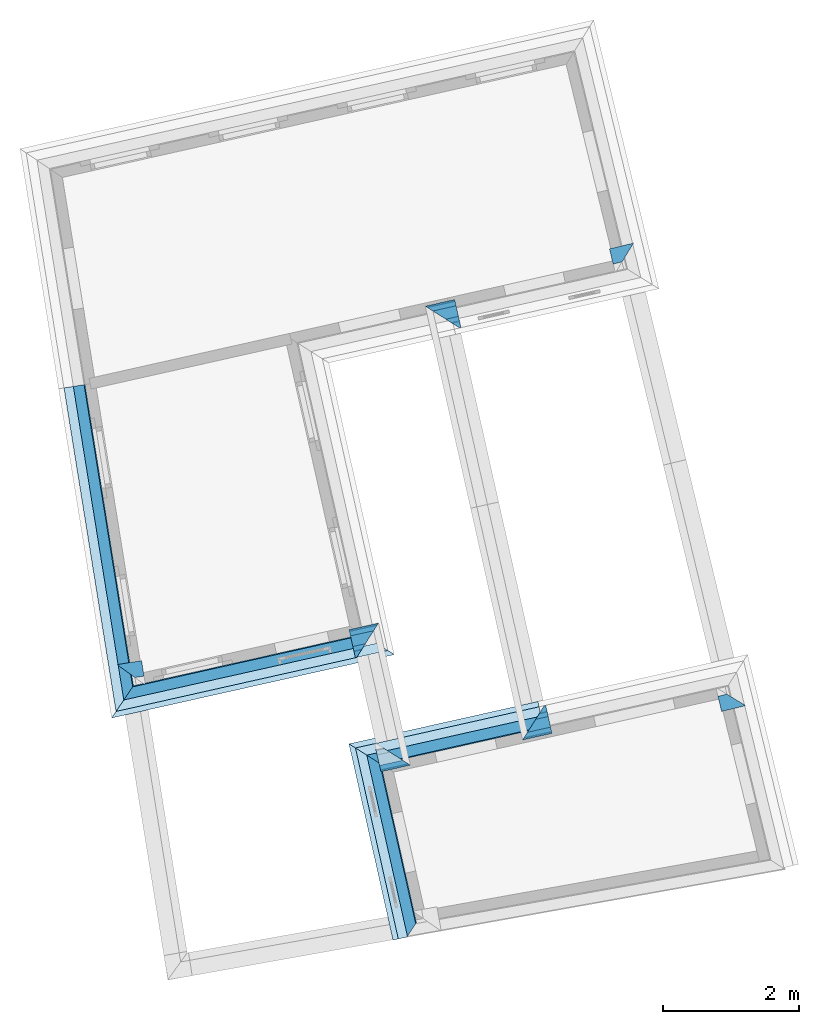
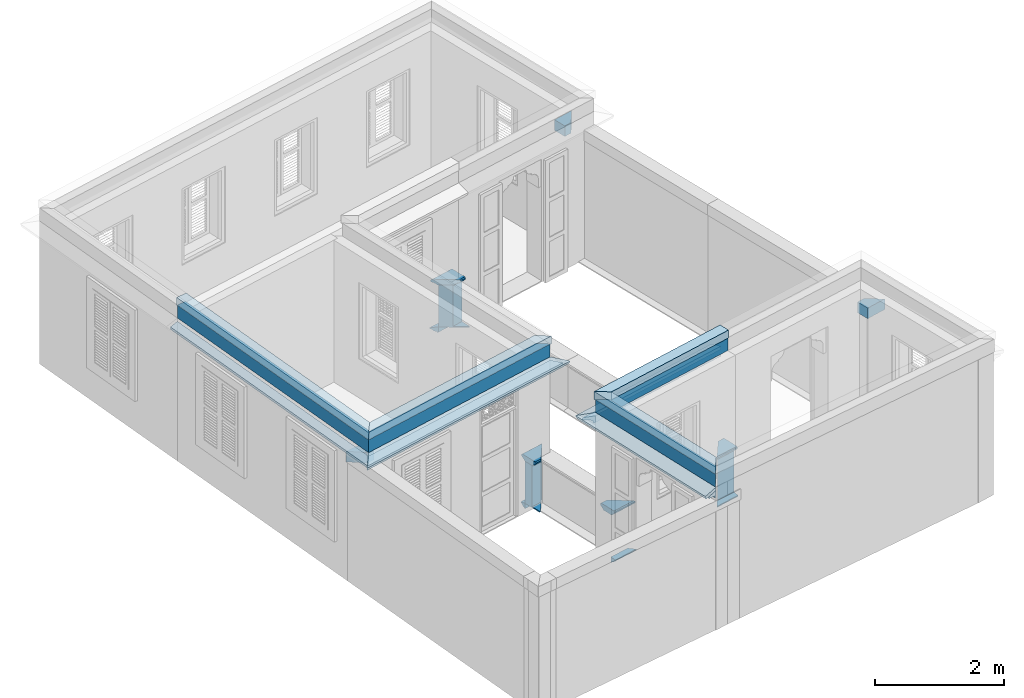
# One storey, part 13 of 15: 15 roofs, 14 walls.
"""IFC4 building model written with IfcOpenShell, lengths in metres."""

from ifc_helpers import new_model, si_unit, frame, origin_with_axes, place, context, subcontext, project, spatial, polyline, outline, extrude, clip, halfspace, material_profile, profile_set, profile_usage, type_object, element, save


model = new_model("IFC4")

# Units and contexts
model_context = context("Model", 3, world=origin_with_axes())
body_context = subcontext(model_context, "Body", "Model", "MODEL_VIEW")
ifc_project = project(units=[si_unit("PLANEANGLEUNIT", "RADIAN"), si_unit("MASSUNIT", "GRAM", prefix="KILO"), si_unit("FORCEUNIT", "NEWTON", prefix="KILO"), si_unit("LENGTHUNIT", "METRE"), si_unit("AREAUNIT", "SQUARE_METRE"), si_unit("VOLUMEUNIT", "CUBIC_METRE")], contexts=[model_context, model_context])

# Site, building, storey
site_placement = place(None, origin_with_axes())
site = spatial("IfcSite", under=ifc_project, at=site_placement, Name="Site plot-10", CompositionType="ELEMENT")
building_placement = place(None, origin_with_axes())
building = spatial("IfcBuilding", under=site, at=building_placement, Name="Building plot-10", CompositionType="ELEMENT")
storey_placement = place(None, frame((0.0, 0.0, 2.7), z_axis=(0.0, 0.0, 1.0), x_axis=(1.0, 0.0, 0.0)))
storey = spatial("IfcBuildingStorey", under=building, at=storey_placement, Name="plot-10 1", CompositionType="ELEMENT", Elevation=2.7)

# Walls
ifc_material_profile_1 = material_profile(None, outline(polyline([(0.265, 2.245), (0.265, 2.445), (0.035, 2.445), (0.035, 2.245), (0.265, 2.245)])))
ifc_profile_set_1 = profile_set([ifc_material_profile_1])
ifc_profile_usage_1 = profile_usage(ifc_profile_set_1)
wall_type_1 = type_object("IfcWallType", Name="parapet street_1", PredefinedType="PARAPET", material=ifc_profile_set_1)
wall_1_placement = place(storey_placement, frame((-24.7898709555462, 11.9953694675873, 0.0), z_axis=(0.987304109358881, 0.158841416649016, 0.0), x_axis=(-0.158841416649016, 0.987304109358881, 0.0)))
element("IfcWall", 1, at=wall_1_placement, inside=storey, type_object=wall_type_1, material=ifc_profile_usage_1, Name="parapet street_1", context=body_context, shape_type="Clipping", body=[
    clip(clip(extrude(outline(polyline([(0.265, 2.245), (0.265, 2.445), (0.035, 2.445), (0.035, 2.245), (0.265, 2.245)])), origin_with_axes(), (0.0, 0.0, 1.0), 2.1), halfspace(frame((0.0, 0.0, 1.1), z_axis=(8.26946079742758e-16, 0.0, -1.0), x_axis=(0.0, 1.0, 0.0)), True)), halfspace(frame((0.0, 0.0, 1.0), z_axis=(-0.707106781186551, 0.0, -0.707106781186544), x_axis=(0.0, 1.0, 0.0)), False)),
])
ifc_material_profile_2 = material_profile(None, outline(polyline([(0.265, 2.245), (0.265, 2.445), (0.035, 2.445), (0.035, 2.245), (0.265, 2.245)])))
ifc_profile_set_2 = profile_set([ifc_material_profile_2])
ifc_profile_usage_2 = profile_usage(ifc_profile_set_2)
wall_type_2 = type_object("IfcWallType", Name="parapet street_1", PredefinedType="PARAPET", material=ifc_profile_set_2)
wall_2_placement = place(storey_placement, frame((-14.1866044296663, 12.1996491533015, 0.0), z_axis=(-0.9718318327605, -0.235675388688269, 0.0), x_axis=(0.235675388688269, -0.9718318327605, 0.0)))
element("IfcWall", 2, at=wall_2_placement, inside=storey, type_object=wall_type_2, material=ifc_profile_usage_2, Name="parapet street_1", context=body_context, shape_type="Clipping", body=[
    clip(clip(extrude(outline(polyline([(0.265, 2.245), (0.265, 2.445), (0.035, 2.445), (0.035, 2.245), (0.265, 2.245)])), origin_with_axes(), (0.0, 0.0, 1.0), 2.1), halfspace(frame((0.0, 0.0, 1.1), z_axis=(8.26946079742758e-16, 0.0, -1.0), x_axis=(0.0, 1.0, 0.0)), True)), halfspace(frame((0.0, 0.0, 1.0), z_axis=(-0.707106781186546, 0.0, -0.707106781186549), x_axis=(0.0, 1.0, 0.0)), False)),
])
ifc_profile_usage_3 = profile_usage(ifc_profile_set_2)
wall_3_placement = place(storey_placement, frame((-17.7562996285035, 18.0090950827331, 0.0), z_axis=(0.971831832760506, 0.235675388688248, 0.0), x_axis=(-0.235675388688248, 0.971831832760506, 0.0)))
element("IfcWall", 3, at=wall_3_placement, inside=storey, type_object=wall_type_2, material=ifc_profile_usage_3, Name="parapet street_1", context=body_context, shape_type="Clipping", body=[
    clip(clip(extrude(outline(polyline([(0.265, 2.245), (0.265, 2.445), (0.035, 2.445), (0.035, 2.245), (0.265, 2.245)])), origin_with_axes(), (0.0, 0.0, 1.0), 2.1), halfspace(frame((0.0, 0.0, 1.1), z_axis=(0.707106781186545, 0.0, -0.70710678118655), x_axis=(0.0, 1.0, 0.0)), True)), halfspace(frame((0.0, 0.0, 1.0), z_axis=(8.26946079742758e-16, 0.0, -1.0), x_axis=(0.0, 1.0, 0.0)), False)),
])
ifc_material_profile_3 = material_profile(None, outline(polyline([(0.25, 0.0), (0.25, 0.795), (0.09, 0.795), (0.09, 0.02), (-0.08, 0.02), (-0.08, 0.0), (0.25, 0.0)])))
ifc_profile_set_3 = profile_set([ifc_material_profile_3])
ifc_profile_usage_4 = profile_usage(ifc_profile_set_3)
wall_type_3 = type_object("IfcWallType", Name="parapet internal_0", PredefinedType="PARAPET", material=ifc_profile_set_3)
wall_4_placement = place(storey_placement, frame((-21.5863266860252, 12.3337581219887, 0.0), z_axis=(0.975741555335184, 0.218925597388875, 0.0), x_axis=(-0.218925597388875, 0.975741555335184, 0.0)))
element("IfcWall", 4, at=wall_4_placement, inside=storey, type_object=wall_type_3, material=ifc_profile_usage_4, Name="parapet internal_0", context=body_context, shape_type="Clipping", body=[
    clip(clip(extrude(outline(polyline([(0.25, 0.0), (0.25, 0.795), (0.09, 0.795), (0.09, 0.02), (-0.08, 0.02), (-0.08, 0.0), (0.25, 0.0)])), origin_with_axes(), (0.0, 0.0, 1.0), 2.1), halfspace(frame((0.0, 0.0, 1.1), z_axis=(0.707106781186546, 0.0, -0.707106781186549), x_axis=(0.0, 1.0, 0.0)), True)), halfspace(frame((0.0, 0.0, 1.0), z_axis=(-6.12323399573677e-17, 0.0, -1.0), x_axis=(0.0, 1.0, 0.0)), False)),
])
ifc_material_profile_4 = material_profile(None, outline(polyline([(0.265, 0.795), (0.268, 0.807), (0.274, 0.816), (0.283, 0.822), (0.295, 0.825), (0.295, 0.84), (0.305, 0.84), (0.317, 0.842), (0.326, 0.849), (0.333, 0.858), (0.335, 0.87), (0.333, 0.882), (0.326, 0.891), (0.317, 0.898), (0.305, 0.9), (0.035, 0.9), (0.023, 0.898), (0.014, 0.891), (0.007, 0.882), (0.005, 0.87), (0.007, 0.858), (0.014, 0.849), (0.023, 0.842), (0.035, 0.84), (0.045, 0.84), (0.045, 0.825), (0.057, 0.822), (0.066, 0.816), (0.072, 0.807), (0.075, 0.795), (0.265, 0.795)])))
ifc_profile_set_4 = profile_set([ifc_material_profile_4])
ifc_profile_usage_5 = profile_usage(ifc_profile_set_4)
wall_type_4 = type_object("IfcWallType", Name="parapet internal_1", PredefinedType="PARAPET", material=ifc_profile_set_4)
wall_5_placement = place(storey_placement, frame((-19.2180663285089, 11.3708280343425, 0.0), z_axis=(-0.975741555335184, -0.218925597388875, 0.0), x_axis=(0.218925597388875, -0.975741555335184, 0.0)))
element("IfcWall", 5, at=wall_5_placement, inside=storey, type_object=wall_type_4, material=ifc_profile_usage_5, Name="parapet internal_1", context=body_context, shape_type="Clipping", body=[
    clip(clip(extrude(outline(polyline([(0.265, 0.795), (0.268, 0.807), (0.274, 0.816), (0.283, 0.822), (0.295, 0.825), (0.295, 0.84), (0.305, 0.84), (0.317, 0.842), (0.326, 0.849), (0.333, 0.858), (0.335, 0.87), (0.333, 0.882), (0.326, 0.891), (0.317, 0.898), (0.305, 0.9), (0.035, 0.9), (0.023, 0.898), (0.014, 0.891), (0.007, 0.882), (0.005, 0.87), (0.007, 0.858), (0.014, 0.849), (0.023, 0.842), (0.035, 0.84), (0.045, 0.84), (0.045, 0.825), (0.057, 0.822), (0.066, 0.816), (0.072, 0.807), (0.075, 0.795), (0.265, 0.795)])), origin_with_axes(), (0.0, 0.0, 1.0), 2.1), halfspace(frame((0.0, 0.0, 1.1), z_axis=(-6.12323399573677e-17, 0.0, -1.0), x_axis=(0.0, 1.0, 0.0)), True)), halfspace(frame((0.0, 0.0, 1.0), z_axis=(-0.707106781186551, 0.0, -0.707106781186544), x_axis=(0.0, 1.0, 0.0)), False)),
])
ifc_profile_usage_6 = profile_usage(ifc_profile_set_4)
wall_6_placement = place(storey_placement, frame((-21.5863266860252, 12.3337581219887, 0.0), z_axis=(0.975741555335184, 0.218925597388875, 0.0), x_axis=(-0.218925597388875, 0.975741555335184, 0.0)))
element("IfcWall", 6, at=wall_6_placement, inside=storey, type_object=wall_type_4, material=ifc_profile_usage_6, Name="parapet internal_1", context=body_context, shape_type="Clipping", body=[
    clip(clip(extrude(outline(polyline([(0.265, 0.795), (0.268, 0.807), (0.274, 0.816), (0.283, 0.822), (0.295, 0.825), (0.295, 0.84), (0.305, 0.84), (0.317, 0.842), (0.326, 0.849), (0.333, 0.858), (0.335, 0.87), (0.333, 0.882), (0.326, 0.891), (0.317, 0.898), (0.305, 0.9), (0.035, 0.9), (0.023, 0.898), (0.014, 0.891), (0.007, 0.882), (0.005, 0.87), (0.007, 0.858), (0.014, 0.849), (0.023, 0.842), (0.035, 0.84), (0.045, 0.84), (0.045, 0.825), (0.057, 0.822), (0.066, 0.816), (0.072, 0.807), (0.075, 0.795), (0.265, 0.795)])), origin_with_axes(), (0.0, 0.0, 1.0), 2.1), halfspace(frame((0.0, 0.0, 1.1), z_axis=(0.707106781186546, 0.0, -0.707106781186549), x_axis=(0.0, 1.0, 0.0)), True)), halfspace(frame((0.0, 0.0, 1.0), z_axis=(-6.12323399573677e-17, 0.0, -1.0), x_axis=(0.0, 1.0, 0.0)), False)),
])
ifc_material_profile_5 = material_profile(None, outline(polyline([(0.25, -0.1), (0.265, -0.1), (0.265, -0.085), (0.278, -0.084), (0.289, -0.081), (0.301, -0.074), (0.309, -0.065), (0.315, -0.055), (0.324, -0.044), (0.334, -0.038), (0.345, -0.035), (0.345, -0.015), (0.25, 0.0), (0.25, -0.1)])))
ifc_profile_set_5 = profile_set([ifc_material_profile_5])
ifc_profile_usage_7 = profile_usage(ifc_profile_set_5)
wall_type_5 = type_object("IfcWallType", Name="parapet internal_2", PredefinedType="PARAPET", material=ifc_profile_set_5)
wall_7_placement = place(storey_placement, frame((-19.2180663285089, 11.3708280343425, 0.0), z_axis=(-0.975741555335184, -0.218925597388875, 0.0), x_axis=(0.218925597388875, -0.975741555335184, 0.0)))
element("IfcWall", 7, at=wall_7_placement, inside=storey, type_object=wall_type_5, material=ifc_profile_usage_7, Name="parapet internal_2", context=body_context, shape_type="Clipping", body=[
    clip(clip(extrude(outline(polyline([(0.25, -0.1), (0.265, -0.1), (0.265, -0.085), (0.278, -0.084), (0.289, -0.081), (0.301, -0.074), (0.309, -0.065), (0.315, -0.055), (0.324, -0.044), (0.334, -0.038), (0.345, -0.035), (0.345, -0.015), (0.25, 0.0), (0.25, -0.1)])), origin_with_axes(), (0.0, 0.0, 1.0), 2.1), halfspace(frame((0.0, 0.0, 1.1), z_axis=(-6.12323399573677e-17, 0.0, -1.0), x_axis=(0.0, 1.0, 0.0)), True)), halfspace(frame((0.0, 0.0, 1.0), z_axis=(-0.707106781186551, 0.0, -0.707106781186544), x_axis=(0.0, 1.0, 0.0)), False)),
])
ifc_profile_usage_8 = profile_usage(ifc_profile_set_5)
wall_8_placement = place(storey_placement, frame((-21.5863266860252, 12.3337581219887, 0.0), z_axis=(0.975741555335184, 0.218925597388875, 0.0), x_axis=(-0.218925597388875, 0.975741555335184, 0.0)))
element("IfcWall", 8, at=wall_8_placement, inside=storey, type_object=wall_type_5, material=ifc_profile_usage_8, Name="parapet internal_2", context=body_context, shape_type="Clipping", body=[
    clip(clip(extrude(outline(polyline([(0.25, -0.1), (0.265, -0.1), (0.265, -0.085), (0.278, -0.084), (0.289, -0.081), (0.301, -0.074), (0.309, -0.065), (0.315, -0.055), (0.324, -0.044), (0.334, -0.038), (0.345, -0.035), (0.345, -0.015), (0.25, 0.0), (0.25, -0.1)])), origin_with_axes(), (0.0, 0.0, 1.0), 2.1), halfspace(frame((0.0, 0.0, 1.1), z_axis=(0.707106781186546, 0.0, -0.707106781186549), x_axis=(0.0, 1.0, 0.0)), True)), halfspace(frame((0.0, 0.0, 1.0), z_axis=(-6.12323399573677e-17, 0.0, -1.0), x_axis=(0.0, 1.0, 0.0)), False)),
])
ifc_material_profile_6 = material_profile(None, outline(polyline([(0.25, 0.0), (0.25, 0.795), (0.09, 0.795), (0.09, 0.02), (-0.08, 0.02), (-0.08, 0.0), (0.25, 0.0)])))
ifc_profile_set_6 = profile_set([ifc_material_profile_6])
ifc_profile_usage_9 = profile_usage(ifc_profile_set_6)
wall_type_6 = type_object("IfcWallType", Name="parapet internal_0", PredefinedType="PARAPET", material=ifc_profile_set_6)
wall_9_placement = place(storey_placement, frame((-20.1272684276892, 17.1788071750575, 0.0), z_axis=(0.975741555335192, 0.218925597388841, 0.0), x_axis=(-0.218925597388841, 0.975741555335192, 0.0)))
element("IfcWall", 9, at=wall_9_placement, inside=storey, type_object=wall_type_6, material=ifc_profile_usage_9, Name="parapet internal_0", context=body_context, shape_type="Clipping", body=[
    clip(clip(extrude(outline(polyline([(0.25, 0.0), (0.25, 0.795), (0.09, 0.795), (0.09, 0.02), (-0.08, 0.02), (-0.08, 0.0), (0.25, 0.0)])), origin_with_axes(), (0.0, 0.0, 1.0), 2.1), halfspace(frame((0.0, 0.0, 1.1), z_axis=(-2.28167838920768e-15, 0.0, -1.0), x_axis=(0.0, 1.0, 0.0)), True)), halfspace(frame((0.0, 0.0, 1.0), z_axis=(-0.707106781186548, 0.0, -0.707106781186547), x_axis=(0.0, 1.0, 0.0)), False)),
])
ifc_profile_usage_10 = profile_usage(ifc_profile_set_6)
wall_10_placement = place(storey_placement, frame((-16.7939642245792, 11.9147200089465, 0.0), z_axis=(-0.975741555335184, -0.218925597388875, 0.0), x_axis=(0.218925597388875, -0.975741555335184, 0.0)))
element("IfcWall", 10, at=wall_10_placement, inside=storey, type_object=wall_type_6, material=ifc_profile_usage_10, Name="parapet internal_0", context=body_context, shape_type="Clipping", body=[
    clip(clip(extrude(outline(polyline([(0.25, 0.0), (0.25, 0.795), (0.09, 0.795), (0.09, 0.02), (-0.08, 0.02), (-0.08, 0.0), (0.25, 0.0)])), origin_with_axes(), (0.0, 0.0, 1.0), 2.1), halfspace(frame((0.0, 0.0, 1.1), z_axis=(0.707106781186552, 0.0, -0.707106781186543), x_axis=(0.0, 1.0, 0.0)), True)), halfspace(frame((0.0, 0.0, 1.0), z_axis=(-6.12323399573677e-17, 0.0, -1.0), x_axis=(0.0, 1.0, 0.0)), False)),
])
ifc_material_profile_7 = material_profile(None, outline(polyline([(0.265, 0.795), (0.268, 0.807), (0.274, 0.816), (0.283, 0.822), (0.295, 0.825), (0.295, 0.84), (0.305, 0.84), (0.317, 0.842), (0.326, 0.849), (0.333, 0.858), (0.335, 0.87), (0.333, 0.882), (0.326, 0.891), (0.317, 0.898), (0.305, 0.9), (0.035, 0.9), (0.023, 0.898), (0.014, 0.891), (0.007, 0.882), (0.005, 0.87), (0.007, 0.858), (0.014, 0.849), (0.023, 0.842), (0.035, 0.84), (0.045, 0.84), (0.045, 0.825), (0.057, 0.822), (0.066, 0.816), (0.072, 0.807), (0.075, 0.795), (0.265, 0.795)])))
ifc_profile_set_7 = profile_set([ifc_material_profile_7])
ifc_profile_usage_11 = profile_usage(ifc_profile_set_7)
wall_type_7 = type_object("IfcWallType", Name="parapet internal_1", PredefinedType="PARAPET", material=ifc_profile_set_7)
wall_11_placement = place(storey_placement, frame((-20.1272684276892, 17.1788071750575, 0.0), z_axis=(0.975741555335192, 0.218925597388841, 0.0), x_axis=(-0.218925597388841, 0.975741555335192, 0.0)))
element("IfcWall", 11, at=wall_11_placement, inside=storey, type_object=wall_type_7, material=ifc_profile_usage_11, Name="parapet internal_1", context=body_context, shape_type="Clipping", body=[
    clip(clip(extrude(outline(polyline([(0.265, 0.795), (0.268, 0.807), (0.274, 0.816), (0.283, 0.822), (0.295, 0.825), (0.295, 0.84), (0.305, 0.84), (0.317, 0.842), (0.326, 0.849), (0.333, 0.858), (0.335, 0.87), (0.333, 0.882), (0.326, 0.891), (0.317, 0.898), (0.305, 0.9), (0.035, 0.9), (0.023, 0.898), (0.014, 0.891), (0.007, 0.882), (0.005, 0.87), (0.007, 0.858), (0.014, 0.849), (0.023, 0.842), (0.035, 0.84), (0.045, 0.84), (0.045, 0.825), (0.057, 0.822), (0.066, 0.816), (0.072, 0.807), (0.075, 0.795), (0.265, 0.795)])), origin_with_axes(), (0.0, 0.0, 1.0), 2.1), halfspace(frame((0.0, 0.0, 1.1), z_axis=(-2.28167838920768e-15, 0.0, -1.0), x_axis=(0.0, 1.0, 0.0)), True)), halfspace(frame((0.0, 0.0, 1.0), z_axis=(-0.707106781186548, 0.0, -0.707106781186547), x_axis=(0.0, 1.0, 0.0)), False)),
])
ifc_profile_usage_12 = profile_usage(ifc_profile_set_7)
wall_12_placement = place(storey_placement, frame((-16.7939642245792, 11.9147200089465, 0.0), z_axis=(-0.975741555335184, -0.218925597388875, 0.0), x_axis=(0.218925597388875, -0.975741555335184, 0.0)))
element("IfcWall", 12, at=wall_12_placement, inside=storey, type_object=wall_type_7, material=ifc_profile_usage_12, Name="parapet internal_1", context=body_context, shape_type="Clipping", body=[
    clip(clip(extrude(outline(polyline([(0.265, 0.795), (0.268, 0.807), (0.274, 0.816), (0.283, 0.822), (0.295, 0.825), (0.295, 0.84), (0.305, 0.84), (0.317, 0.842), (0.326, 0.849), (0.333, 0.858), (0.335, 0.87), (0.333, 0.882), (0.326, 0.891), (0.317, 0.898), (0.305, 0.9), (0.035, 0.9), (0.023, 0.898), (0.014, 0.891), (0.007, 0.882), (0.005, 0.87), (0.007, 0.858), (0.014, 0.849), (0.023, 0.842), (0.035, 0.84), (0.045, 0.84), (0.045, 0.825), (0.057, 0.822), (0.066, 0.816), (0.072, 0.807), (0.075, 0.795), (0.265, 0.795)])), origin_with_axes(), (0.0, 0.0, 1.0), 2.1), halfspace(frame((0.0, 0.0, 1.1), z_axis=(0.707106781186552, 0.0, -0.707106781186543), x_axis=(0.0, 1.0, 0.0)), True)), halfspace(frame((0.0, 0.0, 1.0), z_axis=(-6.12323399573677e-17, 0.0, -1.0), x_axis=(0.0, 1.0, 0.0)), False)),
])
ifc_material_profile_8 = material_profile(None, outline(polyline([(0.25, -0.1), (0.265, -0.1), (0.265, -0.085), (0.278, -0.084), (0.289, -0.081), (0.301, -0.074), (0.309, -0.065), (0.315, -0.055), (0.324, -0.044), (0.334, -0.038), (0.345, -0.035), (0.345, -0.015), (0.25, 0.0), (0.25, -0.1)])))
ifc_profile_set_8 = profile_set([ifc_material_profile_8])
ifc_profile_usage_13 = profile_usage(ifc_profile_set_8)
wall_type_8 = type_object("IfcWallType", Name="parapet internal_2", PredefinedType="PARAPET", material=ifc_profile_set_8)
wall_13_placement = place(storey_placement, frame((-20.1272684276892, 17.1788071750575, 0.0), z_axis=(0.975741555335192, 0.218925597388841, 0.0), x_axis=(-0.218925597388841, 0.975741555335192, 0.0)))
element("IfcWall", 13, at=wall_13_placement, inside=storey, type_object=wall_type_8, material=ifc_profile_usage_13, Name="parapet internal_2", context=body_context, shape_type="Clipping", body=[
    clip(clip(extrude(outline(polyline([(0.25, -0.1), (0.265, -0.1), (0.265, -0.085), (0.278, -0.084), (0.289, -0.081), (0.301, -0.074), (0.309, -0.065), (0.315, -0.055), (0.324, -0.044), (0.334, -0.038), (0.345, -0.035), (0.345, -0.015), (0.25, 0.0), (0.25, -0.1)])), origin_with_axes(), (0.0, 0.0, 1.0), 2.1), halfspace(frame((0.0, 0.0, 1.1), z_axis=(-2.28167838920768e-15, 0.0, -1.0), x_axis=(0.0, 1.0, 0.0)), True)), halfspace(frame((0.0, 0.0, 1.0), z_axis=(-0.707106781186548, 0.0, -0.707106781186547), x_axis=(0.0, 1.0, 0.0)), False)),
])
ifc_profile_usage_14 = profile_usage(ifc_profile_set_8)
wall_14_placement = place(storey_placement, frame((-16.7939642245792, 11.9147200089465, 0.0), z_axis=(-0.975741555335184, -0.218925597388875, 0.0), x_axis=(0.218925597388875, -0.975741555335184, 0.0)))
element("IfcWall", 14, at=wall_14_placement, inside=storey, type_object=wall_type_8, material=ifc_profile_usage_14, Name="parapet internal_2", context=body_context, shape_type="Clipping", body=[
    clip(clip(extrude(outline(polyline([(0.25, -0.1), (0.265, -0.1), (0.265, -0.085), (0.278, -0.084), (0.289, -0.081), (0.301, -0.074), (0.309, -0.065), (0.315, -0.055), (0.324, -0.044), (0.334, -0.038), (0.345, -0.035), (0.345, -0.015), (0.25, 0.0), (0.25, -0.1)])), origin_with_axes(), (0.0, 0.0, 1.0), 2.1), halfspace(frame((0.0, 0.0, 1.1), z_axis=(0.707106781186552, 0.0, -0.707106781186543), x_axis=(0.0, 1.0, 0.0)), True)), halfspace(frame((0.0, 0.0, 1.0), z_axis=(-6.12323399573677e-17, 0.0, -1.0), x_axis=(0.0, 1.0, 0.0)), False)),
])

# Roofs
ifc_material_profile_9 = material_profile(None, outline(polyline([(0.25, 0.0), (0.25, 0.245), (0.09, 0.245), (0.09, 0.0), (0.25, 0.0)])))
ifc_profile_set_9 = profile_set([ifc_material_profile_9])
ifc_profile_usage_15 = profile_usage(ifc_profile_set_9)
roof_type_1 = type_object("IfcRoofType", Name="roofline_0", PredefinedType="FREEFORM", material=ifc_profile_set_9)
roof_1_placement = place(storey_placement, frame((-21.1016825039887, 10.6304969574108, 2.7), z_axis=(0.975741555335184, 0.218925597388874, 0.0), x_axis=(-0.218925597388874, 0.975741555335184, 0.0)))
element("IfcRoof", 15, at=roof_1_placement, inside=storey, type_object=roof_type_1, material=ifc_profile_usage_15, Name="roofline_0", context=body_context, shape_type="Clipping", body=[
    clip(clip(extrude(outline(polyline([(0.25, 0.0), (0.25, 0.245), (0.09, 0.245), (0.09, 0.0), (0.25, 0.0)])), origin_with_axes(), (0.0, 0.0, 1.0), 4.38436903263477), halfspace(frame((0.0, 0.0, 3.38436903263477), z_axis=(2.83604770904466e-14, 0.0, -1.0), x_axis=(0.0, 1.0, 0.0)), True)), halfspace(frame((0.0, 0.0, 1.0), z_axis=(-0.707106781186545, 0.0, -0.70710678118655), x_axis=(0.0, 1.0, 0.0)), False)),
])
ifc_profile_usage_16 = profile_usage(ifc_profile_set_9)
roof_2_placement = place(storey_placement, frame((-19.4153221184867, 7.68222634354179, 2.7), z_axis=(-0.218925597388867, 0.975741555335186, 0.0), x_axis=(-0.975741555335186, -0.218925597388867, 0.0)))
element("IfcRoof", 16, at=roof_2_placement, inside=storey, type_object=roof_type_1, material=ifc_profile_usage_16, Name="roofline_0", context=body_context, shape_type="Clipping", body=[
    clip(clip(extrude(outline(polyline([(0.25, 0.0), (0.25, 0.245), (0.09, 0.245), (0.09, 0.0), (0.25, 0.0)])), origin_with_axes(), (0.0, 0.0, 1.0), 4.24593760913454), halfspace(frame((0.0, 0.0, 3.24593760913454), z_axis=(0.707106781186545, 0.0, -0.70710678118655), x_axis=(0.0, 1.0, 0.0)), True)), halfspace(frame((0.0, 0.0, 1.0), z_axis=(-0.691448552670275, 0.0, -0.722425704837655), x_axis=(0.0, 1.0, 0.0)), False)),
])
ifc_material_profile_10 = material_profile(None, outline(polyline([(0.265, 0.245), (0.265, 0.395), (0.075, 0.395), (0.075, 0.245), (0.265, 0.245)])))
ifc_profile_set_10 = profile_set([ifc_material_profile_10])
ifc_profile_usage_17 = profile_usage(ifc_profile_set_10)
roof_type_2 = type_object("IfcRoofType", Name="roofline_1", PredefinedType="FREEFORM", material=ifc_profile_set_10)
roof_3_placement = place(storey_placement, frame((-21.1016825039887, 10.6304969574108, 2.7), z_axis=(0.975741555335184, 0.218925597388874, 0.0), x_axis=(-0.218925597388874, 0.975741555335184, 0.0)))
element("IfcRoof", 17, at=roof_3_placement, inside=storey, type_object=roof_type_2, material=ifc_profile_usage_17, Name="roofline_1", context=body_context, shape_type="Clipping", body=[
    clip(clip(extrude(outline(polyline([(0.265, 0.245), (0.265, 0.395), (0.075, 0.395), (0.075, 0.245), (0.265, 0.245)])), origin_with_axes(), (0.0, 0.0, 1.0), 4.38436903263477), halfspace(frame((0.0, 0.0, 3.38436903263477), z_axis=(2.83604770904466e-14, 0.0, -1.0), x_axis=(0.0, 1.0, 0.0)), True)), halfspace(frame((0.0, 0.0, 1.0), z_axis=(-0.707106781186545, 0.0, -0.70710678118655), x_axis=(0.0, 1.0, 0.0)), False)),
])
ifc_profile_usage_18 = profile_usage(ifc_profile_set_10)
roof_4_placement = place(storey_placement, frame((-19.4153221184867, 7.68222634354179, 2.7), z_axis=(-0.218925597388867, 0.975741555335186, 0.0), x_axis=(-0.975741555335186, -0.218925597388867, 0.0)))
element("IfcRoof", 18, at=roof_4_placement, inside=storey, type_object=roof_type_2, material=ifc_profile_usage_18, Name="roofline_1", context=body_context, shape_type="Clipping", body=[
    clip(clip(extrude(outline(polyline([(0.265, 0.245), (0.265, 0.395), (0.075, 0.395), (0.075, 0.245), (0.265, 0.245)])), origin_with_axes(), (0.0, 0.0, 1.0), 4.24593760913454), halfspace(frame((0.0, 0.0, 3.24593760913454), z_axis=(0.707106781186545, 0.0, -0.70710678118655), x_axis=(0.0, 1.0, 0.0)), True)), halfspace(frame((0.0, 0.0, 1.0), z_axis=(-0.691448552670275, 0.0, -0.722425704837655), x_axis=(0.0, 1.0, 0.0)), False)),
])
ifc_material_profile_11 = material_profile(None, outline(polyline([(0.25, 0.0), (0.25, 0.245), (0.09, 0.245), (0.09, 0.0), (0.25, 0.0)])))
ifc_profile_set_11 = profile_set([ifc_material_profile_11])
ifc_profile_usage_19 = profile_usage(ifc_profile_set_11)
roof_type_3 = type_object("IfcRoofType", Name="roofline_0", PredefinedType="FREEFORM", material=ifc_profile_set_11)
roof_5_placement = place(storey_placement, frame((-23.6437254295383, 11.1669067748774, 2.7), z_axis=(-0.158841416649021, 0.98730410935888, 0.0), x_axis=(-0.98730410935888, -0.158841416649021, 0.0)))
element("IfcRoof", 19, at=roof_5_placement, inside=storey, type_object=roof_type_3, material=ifc_profile_usage_19, Name="roofline_0", context=body_context, shape_type="Clipping", body=[
    clip(clip(extrude(outline(polyline([(0.25, 0.0), (0.25, 0.245), (0.09, 0.245), (0.09, 0.0), (0.25, 0.0)])), origin_with_axes(), (0.0, 0.0, 1.0), 6.41635748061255), halfspace(frame((0.0, 0.0, 5.41635748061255), z_axis=(-2.5596361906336e-14, 0.0, -1.0), x_axis=(0.0, 1.0, 0.0)), True)), halfspace(frame((0.0, 0.0, 1.0), z_axis=(-0.728408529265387, 0.0, -0.685143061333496), x_axis=(0.0, 1.0, 0.0)), False)),
])
ifc_profile_usage_20 = profile_usage(ifc_profile_set_11)
roof_6_placement = place(storey_placement, frame((-19.6051363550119, 13.0959817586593, 2.7), z_axis=(-0.975741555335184, -0.218925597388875, 0.0), x_axis=(0.218925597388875, -0.975741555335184, 0.0)))
element("IfcRoof", 20, at=roof_6_placement, inside=storey, type_object=roof_type_3, material=ifc_profile_usage_20, Name="roofline_0", context=body_context, shape_type="Clipping", body=[
    clip(clip(extrude(outline(polyline([(0.25, 0.0), (0.25, 0.245), (0.09, 0.245), (0.09, 0.0), (0.25, 0.0)])), origin_with_axes(), (0.0, 0.0, 1.0), 5.30178510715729), halfspace(frame((0.0, 0.0, 4.30178510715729), z_axis=(0.728408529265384, 0.0, -0.6851430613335), x_axis=(0.0, 1.0, 0.0)), True)), halfspace(frame((0.0, 0.0, 1.0), z_axis=(-0.707106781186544, 0.0, -0.707106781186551), x_axis=(0.0, 1.0, 0.0)), False)),
])
ifc_material_profile_12 = material_profile(None, outline(polyline([(0.265, 0.245), (0.265, 0.395), (0.075, 0.395), (0.075, 0.245), (0.265, 0.245)])))
ifc_profile_set_12 = profile_set([ifc_material_profile_12])
ifc_profile_usage_21 = profile_usage(ifc_profile_set_12)
roof_type_4 = type_object("IfcRoofType", Name="roofline_1", PredefinedType="FREEFORM", material=ifc_profile_set_12)
roof_7_placement = place(storey_placement, frame((-23.6437254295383, 11.1669067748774, 2.7), z_axis=(-0.158841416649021, 0.98730410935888, 0.0), x_axis=(-0.98730410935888, -0.158841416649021, 0.0)))
element("IfcRoof", 21, at=roof_7_placement, inside=storey, type_object=roof_type_4, material=ifc_profile_usage_21, Name="roofline_1", context=body_context, shape_type="Clipping", body=[
    clip(clip(extrude(outline(polyline([(0.265, 0.245), (0.265, 0.395), (0.075, 0.395), (0.075, 0.245), (0.265, 0.245)])), origin_with_axes(), (0.0, 0.0, 1.0), 6.41635748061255), halfspace(frame((0.0, 0.0, 5.41635748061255), z_axis=(-2.5596361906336e-14, 0.0, -1.0), x_axis=(0.0, 1.0, 0.0)), True)), halfspace(frame((0.0, 0.0, 1.0), z_axis=(-0.728408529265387, 0.0, -0.685143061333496), x_axis=(0.0, 1.0, 0.0)), False)),
])
ifc_profile_usage_22 = profile_usage(ifc_profile_set_12)
roof_8_placement = place(storey_placement, frame((-19.6051363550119, 13.0959817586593, 2.7), z_axis=(-0.975741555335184, -0.218925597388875, 0.0), x_axis=(0.218925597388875, -0.975741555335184, 0.0)))
element("IfcRoof", 22, at=roof_8_placement, inside=storey, type_object=roof_type_4, material=ifc_profile_usage_22, Name="roofline_1", context=body_context, shape_type="Clipping", body=[
    clip(clip(extrude(outline(polyline([(0.265, 0.245), (0.265, 0.395), (0.075, 0.395), (0.075, 0.245), (0.265, 0.245)])), origin_with_axes(), (0.0, 0.0, 1.0), 5.30178510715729), halfspace(frame((0.0, 0.0, 4.30178510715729), z_axis=(0.728408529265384, 0.0, -0.6851430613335), x_axis=(0.0, 1.0, 0.0)), True)), halfspace(frame((0.0, 0.0, 1.0), z_axis=(-0.707106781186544, 0.0, -0.707106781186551), x_axis=(0.0, 1.0, 0.0)), False)),
])
ifc_material_profile_13 = material_profile(None, outline(polyline([(0.25, -0.19), (0.275, -0.19), (0.275, -0.15), (0.39, -0.15), (0.39, -0.107509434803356), (0.25, -0.0629639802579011), (0.25, -0.19)])))
ifc_profile_set_13 = profile_set([ifc_material_profile_13])
ifc_profile_usage_23 = profile_usage(ifc_profile_set_13)
roof_type_5 = type_object("IfcRoofType", Name="eaves_0", PredefinedType="FREEFORM", material=ifc_profile_set_13)
roof_9_placement = place(storey_placement, frame((-23.6437254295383, 11.1669067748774, 2.7), z_axis=(-0.158841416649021, 0.98730410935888, 0.0), x_axis=(-0.98730410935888, -0.158841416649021, 0.0)))
element("IfcRoof", 23, at=roof_9_placement, inside=storey, type_object=roof_type_5, material=ifc_profile_usage_23, Name="eaves_0", context=body_context, shape_type="Clipping", body=[
    clip(clip(extrude(outline(polyline([(0.25, -0.19), (0.275, -0.19), (0.275, -0.15), (0.39, -0.15), (0.39, -0.107509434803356), (0.25, -0.0629639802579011), (0.25, -0.19)])), origin_with_axes(), (0.0, 0.0, 1.0), 6.41635748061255), halfspace(frame((0.0, 0.0, 5.41635748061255), z_axis=(-2.5596361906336e-14, 0.0, -1.0), x_axis=(0.0, 1.0, 0.0)), True)), halfspace(frame((0.0, 0.0, 1.0), z_axis=(-0.728408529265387, 0.0, -0.685143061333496), x_axis=(0.0, 1.0, 0.0)), False)),
])
ifc_profile_usage_24 = profile_usage(ifc_profile_set_13)
roof_10_placement = place(storey_placement, frame((-19.6051363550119, 13.0959817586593, 2.7), z_axis=(-0.975741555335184, -0.218925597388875, 0.0), x_axis=(0.218925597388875, -0.975741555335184, 0.0)))
element("IfcRoof", 24, at=roof_10_placement, inside=storey, type_object=roof_type_5, material=ifc_profile_usage_24, Name="eaves_0", context=body_context, shape_type="Clipping", body=[
    clip(clip(extrude(outline(polyline([(0.25, -0.19), (0.275, -0.19), (0.275, -0.15), (0.39, -0.15), (0.39, -0.107509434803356), (0.25, -0.0629639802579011), (0.25, -0.19)])), origin_with_axes(), (0.0, 0.0, 1.0), 5.30178510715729), halfspace(frame((0.0, 0.0, 4.30178510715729), z_axis=(0.728408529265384, 0.0, -0.6851430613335), x_axis=(0.0, 1.0, 0.0)), True)), halfspace(frame((0.0, 0.0, 1.0), z_axis=(-0.707106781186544, 0.0, -0.707106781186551), x_axis=(0.0, 1.0, 0.0)), False)),
])
ifc_material_profile_14 = material_profile(None, outline(polyline([(0.25, -0.0629639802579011), (0.451807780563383, -0.127175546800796), (0.47, -0.07), (0.25, 0.0), (0.25, -0.0629639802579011)])))
ifc_profile_set_14 = profile_set([ifc_material_profile_14])
ifc_profile_usage_25 = profile_usage(ifc_profile_set_14)
roof_type_6 = type_object("IfcRoofType", Name="eaves_1", PredefinedType="FREEFORM", material=ifc_profile_set_14)
roof_11_placement = place(storey_placement, frame((-19.6051363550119, 13.0959817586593, 2.7), z_axis=(-0.975741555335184, -0.218925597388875, 0.0), x_axis=(0.218925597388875, -0.975741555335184, 0.0)))
element("IfcRoof", 25, at=roof_11_placement, inside=storey, type_object=roof_type_6, material=ifc_profile_usage_25, Name="eaves_1", context=body_context, shape_type="Clipping", body=[
    clip(clip(extrude(outline(polyline([(0.25, -0.0629639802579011), (0.451807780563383, -0.127175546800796), (0.47, -0.07), (0.25, 0.0), (0.25, -0.0629639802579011)])), origin_with_axes(), (0.0, 0.0, 1.0), 5.30178510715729), halfspace(frame((0.0, 0.0, 4.30178510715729), z_axis=(0.728408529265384, 0.0, -0.6851430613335), x_axis=(0.0, 1.0, 0.0)), True)), halfspace(frame((0.0, 0.0, 1.0), z_axis=(-0.707106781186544, 0.0, -0.707106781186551), x_axis=(0.0, 1.0, 0.0)), False)),
])
ifc_material_profile_15 = material_profile(None, outline(polyline([(0.25, -0.19), (0.275, -0.19), (0.275, -0.15), (0.39, -0.15), (0.39, -0.107509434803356), (0.25, -0.0629639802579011), (0.25, -0.19)])))
ifc_profile_set_15 = profile_set([ifc_material_profile_15])
ifc_profile_usage_26 = profile_usage(ifc_profile_set_15)
roof_type_7 = type_object("IfcRoofType", Name="eaves_0", PredefinedType="FREEFORM", material=ifc_profile_set_15)
roof_12_placement = place(storey_placement, frame((-21.1016825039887, 10.6304969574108, 2.7), z_axis=(0.975741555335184, 0.218925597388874, 0.0), x_axis=(-0.218925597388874, 0.975741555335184, 0.0)))
element("IfcRoof", 26, at=roof_12_placement, inside=storey, type_object=roof_type_7, material=ifc_profile_usage_26, Name="eaves_0", context=body_context, shape_type="Clipping", body=[
    clip(clip(extrude(outline(polyline([(0.25, -0.19), (0.275, -0.19), (0.275, -0.15), (0.39, -0.15), (0.39, -0.107509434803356), (0.25, -0.0629639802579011), (0.25, -0.19)])), origin_with_axes(), (0.0, 0.0, 1.0), 4.38436903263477), halfspace(frame((0.0, 0.0, 3.38436903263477), z_axis=(2.83604770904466e-14, 0.0, -1.0), x_axis=(0.0, 1.0, 0.0)), True)), halfspace(frame((0.0, 0.0, 1.0), z_axis=(-0.707106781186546, 0.0, -0.707106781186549), x_axis=(0.0, 1.0, 0.0)), False)),
])
ifc_profile_usage_27 = profile_usage(ifc_profile_set_15)
roof_13_placement = place(storey_placement, frame((-19.3605907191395, 7.438290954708, 2.7), z_axis=(-0.218925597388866, 0.975741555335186, 0.0), x_axis=(-0.975741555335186, -0.218925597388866, 0.0)))
element("IfcRoof", 27, at=roof_13_placement, inside=storey, type_object=roof_type_7, material=ifc_profile_usage_27, Name="eaves_0", context=body_context, shape_type="Clipping", body=[
    clip(clip(extrude(outline(polyline([(0.25, -0.19), (0.275, -0.19), (0.275, -0.15), (0.39, -0.15), (0.39, -0.107509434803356), (0.25, -0.0629639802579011), (0.25, -0.19)])), origin_with_axes(), (0.0, 0.0, 1.0), 4.49593760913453), halfspace(frame((0.0, 0.0, 3.49593760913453), z_axis=(0.707106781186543, 0.0, -0.707106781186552), x_axis=(0.0, 1.0, 0.0)), True)), halfspace(frame((0.0, 0.0, 1.0), z_axis=(3.82856869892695e-16, 0.0, -1.0), x_axis=(0.0, 1.0, 0.0)), False)),
])
ifc_material_profile_16 = material_profile(None, outline(polyline([(0.25, -0.0629639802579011), (0.451807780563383, -0.127175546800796), (0.47, -0.07), (0.25, 0.0), (0.25, -0.0629639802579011)])))
ifc_profile_set_16 = profile_set([ifc_material_profile_16])
ifc_profile_usage_28 = profile_usage(ifc_profile_set_16)
roof_type_8 = type_object("IfcRoofType", Name="eaves_1", PredefinedType="FREEFORM", material=ifc_profile_set_16)
roof_14_placement = place(storey_placement, frame((-21.1016825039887, 10.6304969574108, 2.7), z_axis=(0.975741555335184, 0.218925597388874, 0.0), x_axis=(-0.218925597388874, 0.975741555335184, 0.0)))
element("IfcRoof", 28, at=roof_14_placement, inside=storey, type_object=roof_type_8, material=ifc_profile_usage_28, Name="eaves_1", context=body_context, shape_type="Clipping", body=[
    clip(clip(extrude(outline(polyline([(0.25, -0.0629639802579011), (0.451807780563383, -0.127175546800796), (0.47, -0.07), (0.25, 0.0), (0.25, -0.0629639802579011)])), origin_with_axes(), (0.0, 0.0, 1.0), 4.38436903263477), halfspace(frame((0.0, 0.0, 3.38436903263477), z_axis=(2.83604770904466e-14, 0.0, -1.0), x_axis=(0.0, 1.0, 0.0)), True)), halfspace(frame((0.0, 0.0, 1.0), z_axis=(-0.707106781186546, 0.0, -0.707106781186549), x_axis=(0.0, 1.0, 0.0)), False)),
])
ifc_profile_usage_29 = profile_usage(ifc_profile_set_16)
roof_15_placement = place(storey_placement, frame((-19.3605907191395, 7.438290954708, 2.7), z_axis=(-0.218925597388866, 0.975741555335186, 0.0), x_axis=(-0.975741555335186, -0.218925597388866, 0.0)))
element("IfcRoof", 29, at=roof_15_placement, inside=storey, type_object=roof_type_8, material=ifc_profile_usage_29, Name="eaves_1", context=body_context, shape_type="Clipping", body=[
    clip(clip(extrude(outline(polyline([(0.25, -0.0629639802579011), (0.451807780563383, -0.127175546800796), (0.47, -0.07), (0.25, 0.0), (0.25, -0.0629639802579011)])), origin_with_axes(), (0.0, 0.0, 1.0), 4.49593760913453), halfspace(frame((0.0, 0.0, 3.49593760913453), z_axis=(0.707106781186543, 0.0, -0.707106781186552), x_axis=(0.0, 1.0, 0.0)), True)), halfspace(frame((0.0, 0.0, 1.0), z_axis=(3.82856869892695e-16, 0.0, -1.0), x_axis=(0.0, 1.0, 0.0)), False)),
])

save(model, "model.ifc")
